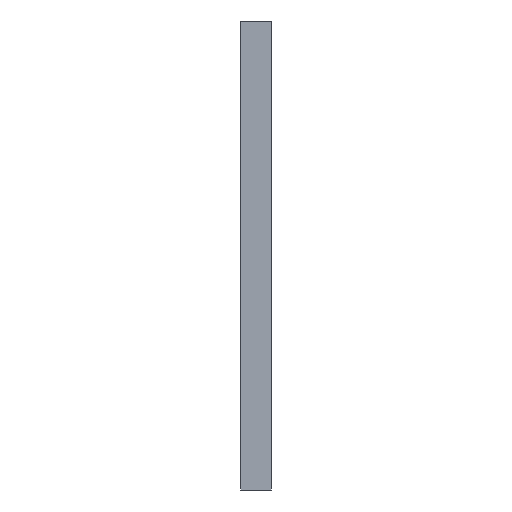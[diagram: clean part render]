
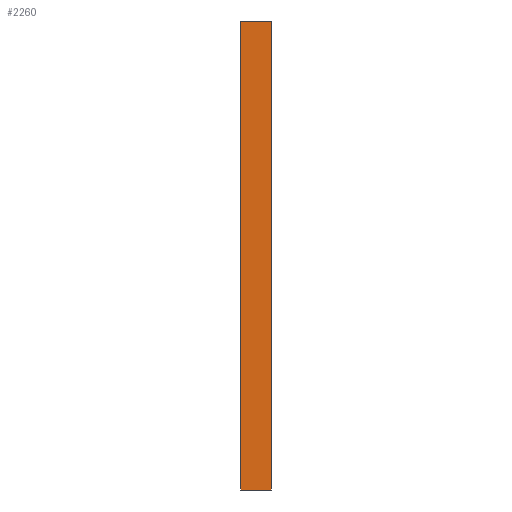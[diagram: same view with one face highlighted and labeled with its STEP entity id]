
A CAD part, left-side view. The second image highlights one B-rep face of the part: STEP entity #2260.
In plain terms, the highlighted planar face has unit normal (-1, 0, 0).
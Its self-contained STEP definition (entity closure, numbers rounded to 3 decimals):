
#114=CARTESIAN_POINT('Line Origine',(-310.,0.,-72.5)) ;
#118=CARTESIAN_POINT('Vertex',(-310.,0.,-165.)) ;
#120=CARTESIAN_POINT('Vertex',(-310.,0.,20.)) ;
#468=CARTESIAN_POINT('Vertex',(-310.,12.,20.)) ;
#491=CARTESIAN_POINT('Vertex',(-310.,12.,-165.)) ;
#494=CARTESIAN_POINT('Line Origine',(-310.,12.,-72.5)) ;
#2239=CARTESIAN_POINT('Axis2P3D Location',(-310.,0.,-160.)) ;
#2244=CARTESIAN_POINT('Line Origine',(-310.,6.,20.)) ;
#2249=CARTESIAN_POINT('Line Origine',(-310.,6.,-165.)) ;
#115=DIRECTION('Vector Direction',(0.,0.,1.)) ;
#495=DIRECTION('Vector Direction',(0.,0.,1.)) ;
#2240=DIRECTION('Axis2P3D Direction',(-1.,0.,0.)) ;
#2241=DIRECTION('Axis2P3D XDirection',(0.,0.,1.)) ;
#2245=DIRECTION('Vector Direction',(0.,1.,0.)) ;
#2250=DIRECTION('Vector Direction',(0.,1.,0.)) ;
#2242=AXIS2_PLACEMENT_3D('Plane Axis2P3D',#2239,#2240,#2241) ;
#2255=ORIENTED_EDGE('',*,*,#2248,.T.) ;
#2256=ORIENTED_EDGE('',*,*,#498,.F.) ;
#2257=ORIENTED_EDGE('',*,*,#2253,.F.) ;
#2258=ORIENTED_EDGE('',*,*,#122,.T.) ;
#116=VECTOR('Line Direction',#115,1.) ;
#496=VECTOR('Line Direction',#495,1.) ;
#2246=VECTOR('Line Direction',#2245,1.) ;
#2251=VECTOR('Line Direction',#2250,1.) ;
#2260=ADVANCED_FACE('\X2\96F64EF651E04F554F53\X0\',(#2259),#2243,.T.) ;
#122=EDGE_CURVE('',#119,#121,#117,.T.) ;
#498=EDGE_CURVE('',#492,#469,#497,.T.) ;
#2248=EDGE_CURVE('',#121,#469,#2247,.T.) ;
#2253=EDGE_CURVE('',#119,#492,#2252,.T.) ;
#2254=EDGE_LOOP('',(#2255,#2256,#2257,#2258)) ;
#2259=FACE_OUTER_BOUND('',#2254,.T.) ;
#117=LINE('Line',#114,#116) ;
#497=LINE('Line',#494,#496) ;
#2247=LINE('Line',#2244,#2246) ;
#2252=LINE('Line',#2249,#2251) ;
#2243=PLANE('Plane',#2242) ;
#119=VERTEX_POINT('',#118) ;
#121=VERTEX_POINT('',#120) ;
#469=VERTEX_POINT('',#468) ;
#492=VERTEX_POINT('',#491) ;
